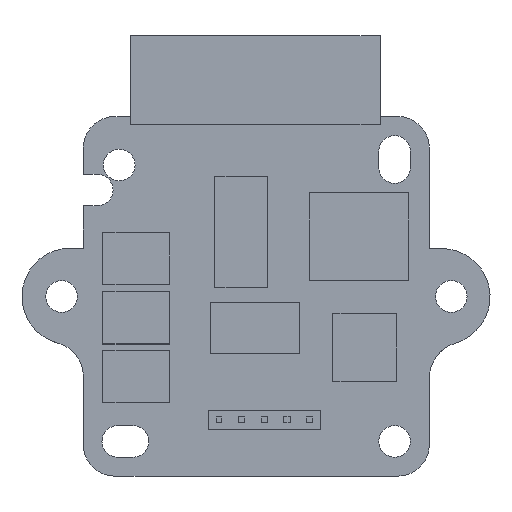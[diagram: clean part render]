
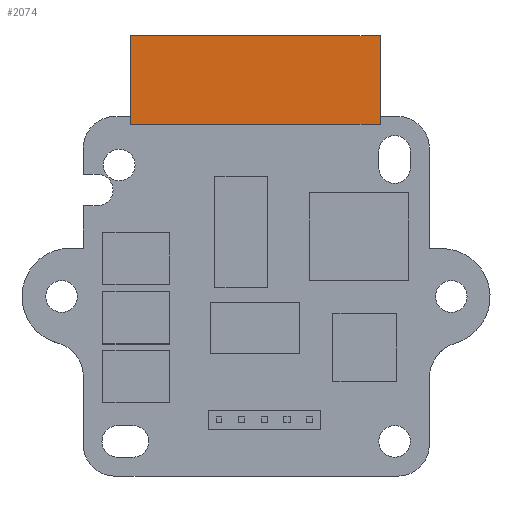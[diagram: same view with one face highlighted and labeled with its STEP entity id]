
A CAD part, top view. The second image highlights one B-rep face of the part: STEP entity #2074.
In plain terms, the highlighted planar face has unit normal (0, 0, 1).
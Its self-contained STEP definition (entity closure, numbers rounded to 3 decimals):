
#79=PLANE('',#2260);
#200=FACE_OUTER_BOUND('',#337,.T.);
#337=EDGE_LOOP('',(#1687,#1688,#1689,#1690));
#497=LINE('',#3159,#743);
#500=LINE('',#3165,#746);
#503=LINE('',#3171,#749);
#506=LINE('',#3175,#752);
#743=VECTOR('',#2587,10.);
#746=VECTOR('',#2592,10.);
#749=VECTOR('',#2597,10.);
#752=VECTOR('',#2602,10.);
#1033=VERTEX_POINT('',#3156);
#1034=VERTEX_POINT('',#3158);
#1036=VERTEX_POINT('',#3164);
#1038=VERTEX_POINT('',#3170);
#1265=EDGE_CURVE('',#1034,#1033,#497,.T.);
#1268=EDGE_CURVE('',#1036,#1034,#500,.T.);
#1271=EDGE_CURVE('',#1038,#1036,#503,.T.);
#1274=EDGE_CURVE('',#1033,#1038,#506,.T.);
#1687=ORIENTED_EDGE('',*,*,#1274,.T.);
#1688=ORIENTED_EDGE('',*,*,#1271,.T.);
#1689=ORIENTED_EDGE('',*,*,#1268,.T.);
#1690=ORIENTED_EDGE('',*,*,#1265,.T.);
#2074=ADVANCED_FACE('',(#200),#79,.T.);
#2260=AXIS2_PLACEMENT_3D('',#3176,#2603,#2604);
#2587=DIRECTION('',(0.,-1.,0.));
#2592=DIRECTION('',(-1.,0.,0.));
#2597=DIRECTION('',(0.,1.,0.));
#2602=DIRECTION('',(1.,0.,0.));
#2603=DIRECTION('center_axis',(0.,0.,1.));
#2604=DIRECTION('ref_axis',(1.,0.,0.));
#3156=CARTESIAN_POINT('',(11.074,41.413,14.4));
#3158=CARTESIAN_POINT('',(11.074,51.455,14.4));
#3159=CARTESIAN_POINT('',(11.074,41.413,14.4));
#3164=CARTESIAN_POINT('',(39.438,51.455,14.4));
#3165=CARTESIAN_POINT('',(11.074,51.455,14.4));
#3170=CARTESIAN_POINT('',(39.438,41.413,14.4));
#3171=CARTESIAN_POINT('',(39.438,51.455,14.4));
#3175=CARTESIAN_POINT('',(39.438,41.413,14.4));
#3176=CARTESIAN_POINT('Origin',(25.256,46.434,14.4));
